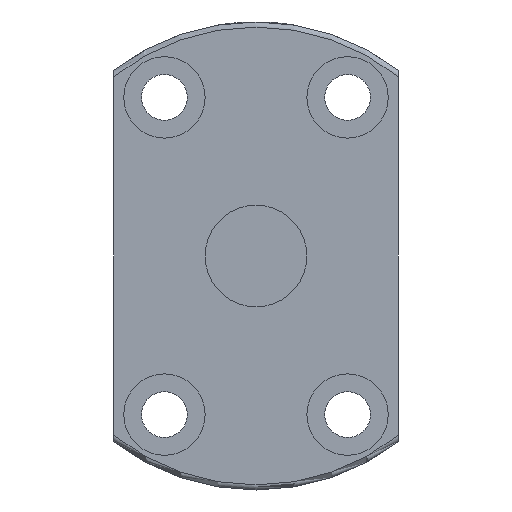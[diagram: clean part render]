
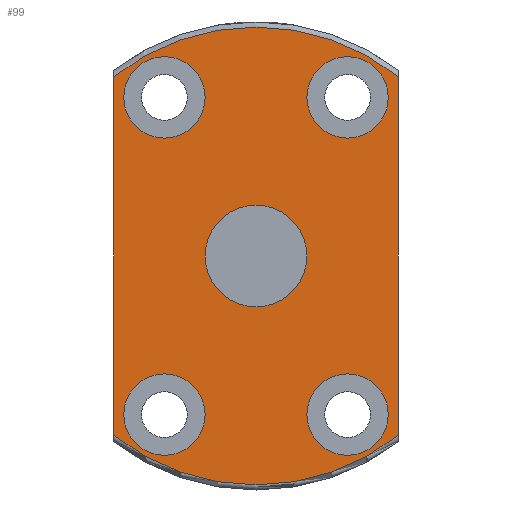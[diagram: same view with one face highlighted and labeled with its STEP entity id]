
A CAD part, front view. The second image highlights one B-rep face of the part: STEP entity #99.
In plain terms, the highlighted planar face has unit normal (0, -1, 0).
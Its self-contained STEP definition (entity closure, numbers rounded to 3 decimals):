
#80=PLANE('',#622);
#99=ADVANCED_FACE('',(#215,#216,#217,#218,#219),#80,.F.);
#160=CIRCLE('',#616,4.);
#161=CIRCLE('',#617,4.);
#162=CIRCLE('',#618,4.);
#163=CIRCLE('',#619,4.);
#164=CIRCLE('',#620,22.5);
#165=CIRCLE('',#621,22.5);
#183=LINE('',#894,#194);
#184=LINE('',#899,#195);
#194=VECTOR('',#720,1.);
#195=VECTOR('',#723,1.);
#215=FACE_BOUND('',#263,.T.);
#216=FACE_BOUND('',#264,.T.);
#217=FACE_BOUND('',#265,.T.);
#218=FACE_BOUND('',#266,.T.);
#219=FACE_BOUND('',#267,.T.);
#263=EDGE_LOOP('',(#339));
#264=EDGE_LOOP('',(#340));
#265=EDGE_LOOP('',(#341));
#266=EDGE_LOOP('',(#342));
#267=EDGE_LOOP('',(#343,#344,#345,#346));
#339=ORIENTED_EDGE('',*,*,#524,.F.);
#340=ORIENTED_EDGE('',*,*,#525,.F.);
#341=ORIENTED_EDGE('',*,*,#526,.F.);
#342=ORIENTED_EDGE('',*,*,#527,.F.);
#343=ORIENTED_EDGE('',*,*,#528,.F.);
#344=ORIENTED_EDGE('',*,*,#529,.T.);
#345=ORIENTED_EDGE('',*,*,#530,.T.);
#346=ORIENTED_EDGE('',*,*,#531,.T.);
#471=VERTEX_POINT('',#887);
#472=VERTEX_POINT('',#889);
#473=VERTEX_POINT('',#891);
#474=VERTEX_POINT('',#893);
#475=VERTEX_POINT('',#895);
#476=VERTEX_POINT('',#896);
#477=VERTEX_POINT('',#898);
#478=VERTEX_POINT('',#900);
#524=EDGE_CURVE('',#471,#471,#160,.T.);
#525=EDGE_CURVE('',#472,#472,#161,.T.);
#526=EDGE_CURVE('',#473,#473,#162,.T.);
#527=EDGE_CURVE('',#474,#474,#163,.T.);
#528=EDGE_CURVE('',#475,#476,#183,.T.);
#529=EDGE_CURVE('',#475,#477,#164,.T.);
#530=EDGE_CURVE('',#477,#478,#184,.T.);
#531=EDGE_CURVE('',#478,#476,#165,.T.);
#616=AXIS2_PLACEMENT_3D('',#886,#712,#713);
#617=AXIS2_PLACEMENT_3D('',#888,#714,#715);
#618=AXIS2_PLACEMENT_3D('',#890,#716,#717);
#619=AXIS2_PLACEMENT_3D('',#892,#718,#719);
#620=AXIS2_PLACEMENT_3D('',#897,#721,#722);
#621=AXIS2_PLACEMENT_3D('',#901,#724,#725);
#622=AXIS2_PLACEMENT_3D('',#902,#726,#727);
#712=DIRECTION('',(0.,-1.,0.));
#713=DIRECTION('',(1.,0.,0.));
#714=DIRECTION('',(0.,-1.,0.));
#715=DIRECTION('',(1.,0.,0.));
#716=DIRECTION('',(0.,-1.,0.));
#717=DIRECTION('',(1.,0.,0.));
#718=DIRECTION('',(0.,-1.,0.));
#719=DIRECTION('',(1.,0.,0.));
#720=DIRECTION('',(0.,0.,1.));
#721=DIRECTION('',(0.,-1.,0.));
#722=DIRECTION('',(0.,0.,1.));
#723=DIRECTION('',(0.,0.,1.));
#724=DIRECTION('',(0.,-1.,0.));
#725=DIRECTION('',(0.,0.,1.));
#726=DIRECTION('',(0.,1.,0.));
#727=DIRECTION('',(0.,0.,1.));
#886=CARTESIAN_POINT('',(9.,-34.,15.588));
#887=CARTESIAN_POINT('',(13.,-34.,15.588));
#888=CARTESIAN_POINT('',(-9.,-34.,15.588));
#889=CARTESIAN_POINT('',(-5.,-34.,15.588));
#890=CARTESIAN_POINT('',(-9.,-34.,-15.588));
#891=CARTESIAN_POINT('',(-5.,-34.,-15.588));
#892=CARTESIAN_POINT('',(9.,-34.,-15.588));
#893=CARTESIAN_POINT('',(13.,-34.,-15.588));
#894=CARTESIAN_POINT('',(-14.,-34.,23.));
#895=CARTESIAN_POINT('',(-14.,-34.,-17.614));
#896=CARTESIAN_POINT('',(-14.,-34.,17.614));
#897=CARTESIAN_POINT('',(0.,-34.,0.));
#898=CARTESIAN_POINT('',(14.,-34.,-17.614));
#899=CARTESIAN_POINT('',(14.,-34.,23.));
#900=CARTESIAN_POINT('',(14.,-34.,17.614));
#901=CARTESIAN_POINT('',(0.,-34.,0.));
#902=CARTESIAN_POINT('',(0.,-34.,23.));
